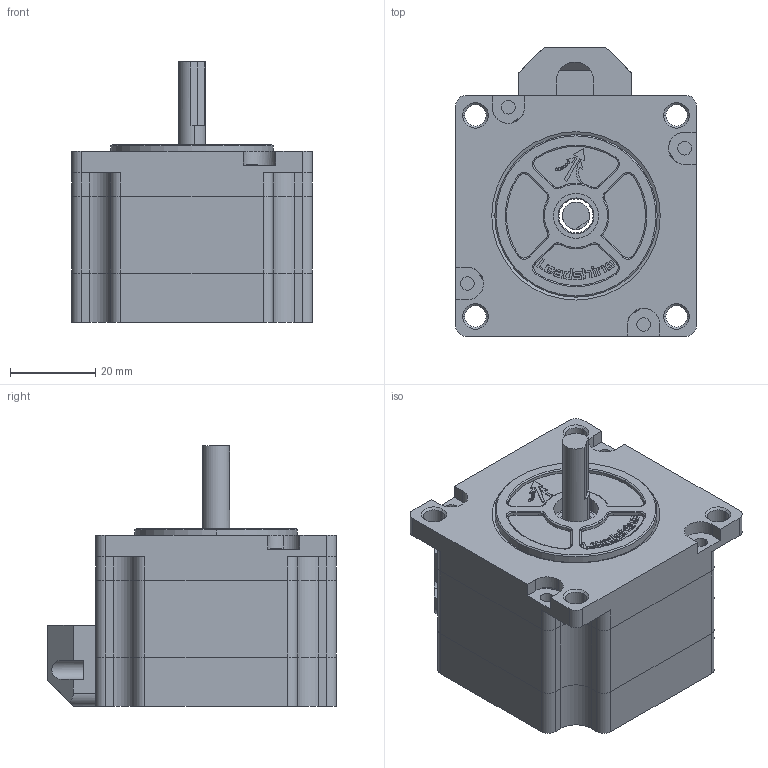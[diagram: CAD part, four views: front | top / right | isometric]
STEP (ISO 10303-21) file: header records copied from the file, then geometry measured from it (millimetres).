
FILE_DESCRIPTION (( 'STEP AP203' ), '1' );
FILE_NAME ('57CM06 MS20 .STEP', '2021-01-08T06:31:17', ( 'Microsoft' ), ( 'China' ), 'SwSTEP 2.0', 'SolidWorks 2011', '' );
FILE_SCHEMA (( 'CONFIG_CONTROL_DESIGN' ));
Length unit declared in the file: millimetre
Products named in the file (7): 57CM06 MS20 ; 1_1_02_EB571-152_3_1_1; 2_3_1_1; 压线盖（3D)_Default; 1_2_04_680006_3_1_1; 3_3_1_1; 1_1_04_EB572-359_3_1_1
Assembly tree (6 placements, depth 2):
  57CM06 MS20 
    1_1_04_EB572-359_3_1_1
    1_1_02_EB571-152_3_1_1
    2_3_1_1
    压线盖（3D)_Default
    1_2_04_680006_3_1_1
    3_3_1_1
Bounding box: 56.4 x 67.7 x 61 mm (x, y, z)
Volume: 59710.2 mm3; surface area: 38683.6 mm2
Topology: 5 solids, 10 shells, 1229 faces, 3380 edges, 2235 vertices
Faces by surface type: plane 810, cylinder 209, bspline 152, torus 38, cone 20
Entity records: 44711 total; most frequent: CARTESIAN_POINT 13261, ORIENTED_EDGE 6744, DIRECTION 5716, EDGE_CURVE 3380, VECTOR 2530, LINE 2530, VERTEX_POINT 2235, AXIS2_PLACEMENT_3D 1593
